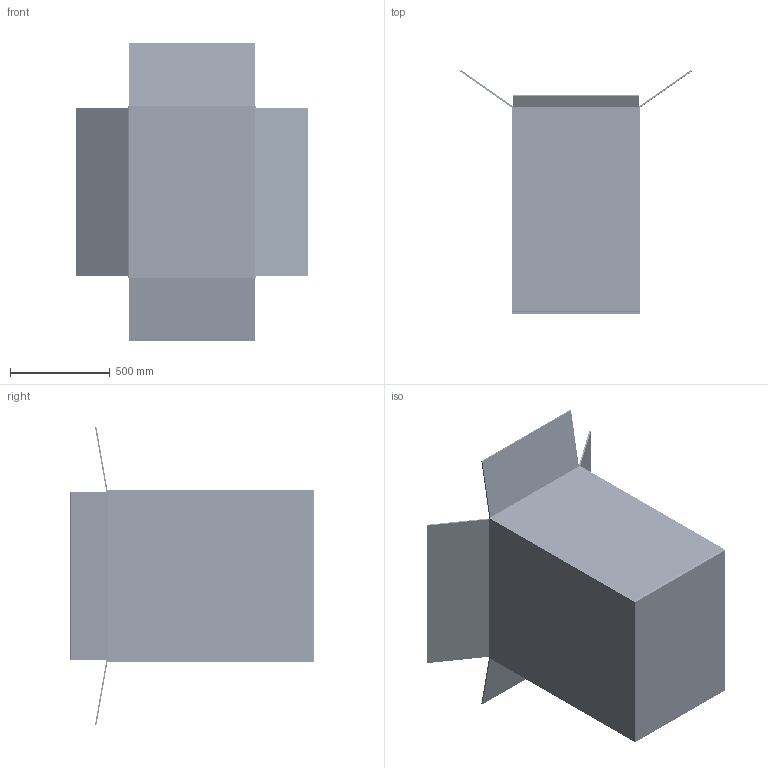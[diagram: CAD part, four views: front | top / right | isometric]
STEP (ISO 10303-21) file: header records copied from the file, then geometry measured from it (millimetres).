
FILE_DESCRIPTION((''),'2;1');
FILE_NAME('BOSE4402-WR-ASM_ASM','2009-09-28T',('hrh'),(''),'PRO/ENGINEER BY PARAMETRIC TECHNOLOGY CORPORATION, 2001280','PRO/ENGINEER BY PARAMETRIC TECHNOLOGY CORPORATION, 2001280','');
FILE_SCHEMA(('CONFIG_CONTROL_DESIGN'));
Products named in the file (86): BOSE4402-BZ-3_1; BOSE4402-BZ-3_3; BOSE4402-BZ-3_4; BOSE4402-BZ-3_5; BOSE4402-BZ-3_9; BOSE4402-BZ-3_ASM_ASM; CABINET_ASSY_4402_WR; PLATE_MNT_COMP_DRIVER_; COMPRESSION_DRIVER___; CHM6X25; ANGLE_BRACE_RIGGING_; INSERT_RIGGING_3_8-16_THREAD_; SCREW_3_8_16_RIGGING_POINT_; SCR_MACH_M4X16_; FOAM_GRILLE_4402; KM6X12___; DISK_ALIGNMENT_COMP_DRIVER_; GASKET_COMP_DRIVER_; KM4X12__; GASKET_PANEL_9702_; GASKET_GRILLE_9702_; INSERTS_M4_; HANDLE_BOX_11; EVA_HANDLE_BOX_4; TA4X15_6; HANDLE_BOX_ASM_2_ASM; REAR_PANEL_E09_11147_NX002; EAG011-01__; DONGXIANG; MPT250-48; MPT250-30; PASSIVE; NEUTRIK_NLT4MP; ZHAOXIANG-SAMALL; ZHAOXIANG-BIG; NN; JIAOZI; M3X5; NOM3; XIANG001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
Assembly tree (268 placements, depth 5):
  BOSE4402-WR-ASM_ASM
    BOSE4402-BZ-3_ASM_ASM  x2
      BOSE4402-BZ-3_1
      BOSE4402-BZ-3_3
      BOSE4402-BZ-3_4
      BOSE4402-BZ-3_5
      BOSE4402-BZ-3_9
    BOSELT_4402_WR_ASM
      CABINET_ASSY_4402_WR
      PLATE_MNT_COMP_DRIVER_
      COMPRESSION_DRIVER___
      CHM6X25  x2
      ANGLE_BRACE_RIGGING_  x9
      INSERT_RIGGING_3_8-16_THREAD_  x16
      SCREW_3_8_16_RIGGING_POINT_  x16
      SCR_MACH_M4X16_  x12
      FOAM_GRILLE_4402
      KM6X12___  x4
      DISK_ALIGNMENT_COMP_DRIVER_
      GASKET_COMP_DRIVER_
      KM4X12__  x4
      GASKET_PANEL_9702_
      GASKET_GRILLE_9702_
      INSERTS_M4_  x12
      HANDLE_BOX_ASM_2_ASM  x4
        HANDLE_BOX_11
        EVA_HANDLE_BOX_4
        TA4X15_6
      LT9702-III-PANEL_INPUT_WR_ASM
        REAR_PANEL_E09_11147_NX002
        EAG011-01__
        DONGXIANG
        MPT250-48
        MPT250-30
        PASSIVE  x2
        NEUTRIK_NLT4MP  x2
        ZHAOXIANG-SAMALL  x2
        ZHAOXIANG-BIG  x4
        NN
        JIAOZI  x9
        M3X5  x4
        NOM3  x4
        XIANG001
        X2001
        X2002
        X3001
        X3002
        XIANG002
        M3X8_GB823  x5
      PLATE_DIVIDING_
      E09-05209_NX001
      9702_RAIN_SHIELD_3
      CASTING_ASM  x2
        LOWER_DIE_CASTING_
        UPPER_DIE_CASTING_
        EVA8_
        DRIVER_
        EVA7_
        BARRIER_
        THERMAL_CONDUCTIVE_MATERIAL_
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Bounding box: 1161.11 x 1221.48 x 1490.26 mm (x, y, z)
Volume: 232370613.4 mm3; surface area: 33117824.1 mm2
Topology: 380 solids, 380 shells, 21345 faces, 53683 edges, 33413 vertices
Faces by surface type: plane 9880, cylinder 5386, bspline 2816, cone 1799, torus 968, sphere 468, extrusion 28
Entity records: 454954 total; most frequent: CARTESIAN_POINT 281099, ORIENTED_EDGE 37634, DIRECTION 32112, EDGE_CURVE 18817, AXIS2_PLACEMENT_3D 11747, VERTEX_POINT 11572, VECTOR 8618, LINE 8594
